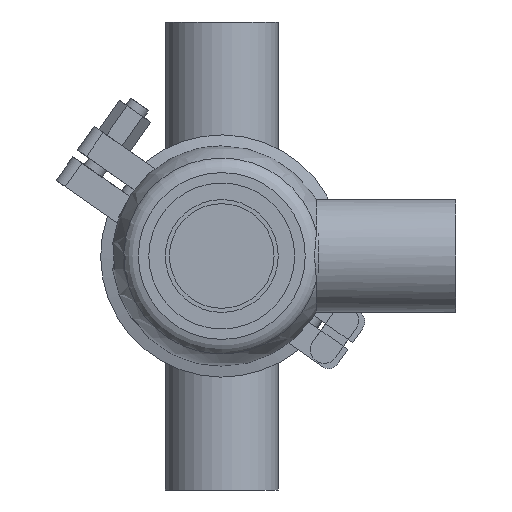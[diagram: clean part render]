
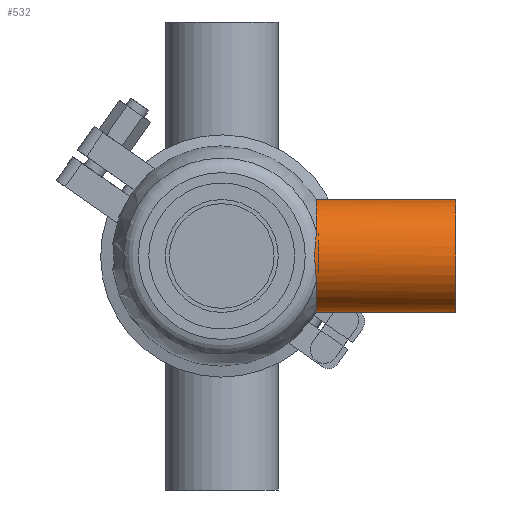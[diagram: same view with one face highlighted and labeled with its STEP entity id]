
A CAD part, front view. The second image highlights one B-rep face of the part: STEP entity #532.
In plain terms, the highlighted cylindrical face has radius 20.5 mm (diameter 41 mm), a full revolution.
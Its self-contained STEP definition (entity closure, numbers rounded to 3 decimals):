
#361 = DIRECTION ( 'NONE',  ( 0., 0., 1. ) ) ;
#421 = CIRCLE ( 'NONE', #9969, 20.5 ) ;
#532 = ADVANCED_FACE ( 'NONE', ( #6890, #5323 ), #9929, .T. ) ;
#613 = EDGE_CURVE ( 'NONE', #3314, #16763, #16576, .T. ) ;
#1263 = DIRECTION ( 'NONE',  ( 0., 0., 1. ) ) ;
#2008 = CARTESIAN_POINT ( 'NONE',  ( 34.203, -19.557, 6.355 ) ) ;
#2700 = CARTESIAN_POINT ( 'NONE',  ( 34.347, -19.003, -7.861 ) ) ;
#2832 = CARTESIAN_POINT ( 'NONE',  ( 33.772, -20.5, -0.802 ) ) ;
#3010 = CARTESIAN_POINT ( 'NONE',  ( 34.347, -18.261, -9.316 ) ) ;
#3032 = CIRCLE ( 'NONE', #13878, 20.5 ) ;
#3314 = VERTEX_POINT ( 'NONE', #11251 ) ;
#3624 = EDGE_LOOP ( 'NONE', ( #11936 ) ) ;
#4053 = DIRECTION ( 'NONE',  ( 0., 0., 1. ) ) ;
#4340 = CARTESIAN_POINT ( 'NONE',  ( 33.882, -20.311, -2.808 ) ) ;
#5323 = FACE_OUTER_BOUND ( 'NONE', #3624, .T. ) ;
#5616 = DIRECTION ( 'NONE',  ( -1., 0., 0. ) ) ;
#5620 = CARTESIAN_POINT ( 'NONE',  ( 33.772, -20.5, 0.802 ) ) ;
#6421 = ORIENTED_EDGE ( 'NONE', *, *, #7566, .T. ) ;
#6769 = EDGE_CURVE ( 'NONE', #8790, #8790, #3032, .T. ) ;
#6890 = FACE_OUTER_BOUND ( 'NONE', #12849, .T. ) ;
#7063 = CARTESIAN_POINT ( 'NONE',  ( 34.347, -18.261, -9.316 ) ) ;
#7095 = DIRECTION ( 'NONE',  ( -1., 0., 0. ) ) ;
#7566 = EDGE_CURVE ( 'NONE', #16763, #3314, #421, .T. ) ;
#8317 = CARTESIAN_POINT ( 'NONE',  ( 33.982, -20.121, 4.006 ) ) ;
#8790 = VERTEX_POINT ( 'NONE', #8894 ) ;
#8894 = CARTESIAN_POINT ( 'NONE',  ( 85., 0., 20.5 ) ) ;
#9929 = CYLINDRICAL_SURFACE ( 'NONE', #12590, 20.5 ) ;
#9969 = AXIS2_PLACEMENT_3D ( 'NONE', #19944, #15274, #1263 ) ;
#10523 = CARTESIAN_POINT ( 'NONE',  ( 33.803, -20.453, 1.603 ) ) ;
#11251 = CARTESIAN_POINT ( 'NONE',  ( 34.347, -18.261, 9.316 ) ) ;
#11545 = CARTESIAN_POINT ( 'NONE',  ( 0., 0., 0. ) ) ;
#11936 = ORIENTED_EDGE ( 'NONE', *, *, #6769, .T. ) ;
#12590 = AXIS2_PLACEMENT_3D ( 'NONE', #11545, #7095, #361 ) ;
#12849 = EDGE_LOOP ( 'NONE', ( #6421, #17544 ) ) ;
#13603 = CARTESIAN_POINT ( 'NONE',  ( 33.914, -20.251, -3.21 ) ) ;
#13712 = CARTESIAN_POINT ( 'NONE',  ( 33.803, -20.453, -1.604 ) ) ;
#13878 = AXIS2_PLACEMENT_3D ( 'NONE', #19738, #5616, #4053 ) ;
#14980 = CARTESIAN_POINT ( 'NONE',  ( 33.908, -20.264, 3.204 ) ) ;
#15051 = CARTESIAN_POINT ( 'NONE',  ( 33.983, -20.109, -4.007 ) ) ;
#15274 = DIRECTION ( 'NONE',  ( 1., 0., 0. ) ) ;
#16120 = CARTESIAN_POINT ( 'NONE',  ( 34.347, -19.003, 7.862 ) ) ;
#16576 = B_SPLINE_CURVE_WITH_KNOTS ( 'NONE', 3,
 ( #17679, #16120, #2008, #8317, #14980, #10523, #5620, #2832, #13712, #4340, #13603, #15051, #19931, #18369, #2700, #7063 ),
 .UNSPECIFIED., .F., .F.,
 ( 4, 2, 2, 2, 2, 2, 2, 4 ),
 ( 0., 0.005, 0.007, 0.01, 0.012, 0.013, 0.014, 0.019 ),
 .UNSPECIFIED. ) ;
#16763 = VERTEX_POINT ( 'NONE', #3010 ) ;
#17544 = ORIENTED_EDGE ( 'NONE', *, *, #613, .T. ) ;
#17679 = CARTESIAN_POINT ( 'NONE',  ( 34.347, -18.261, 9.316 ) ) ;
#18369 = CARTESIAN_POINT ( 'NONE',  ( 34.203, -19.556, -6.355 ) ) ;
#19738 = CARTESIAN_POINT ( 'NONE',  ( 85., 0., 0. ) ) ;
#19931 = CARTESIAN_POINT ( 'NONE',  ( 34.02, -20.026, -4.401 ) ) ;
#19944 = CARTESIAN_POINT ( 'NONE',  ( 34.347, 0., 0. ) ) ;
